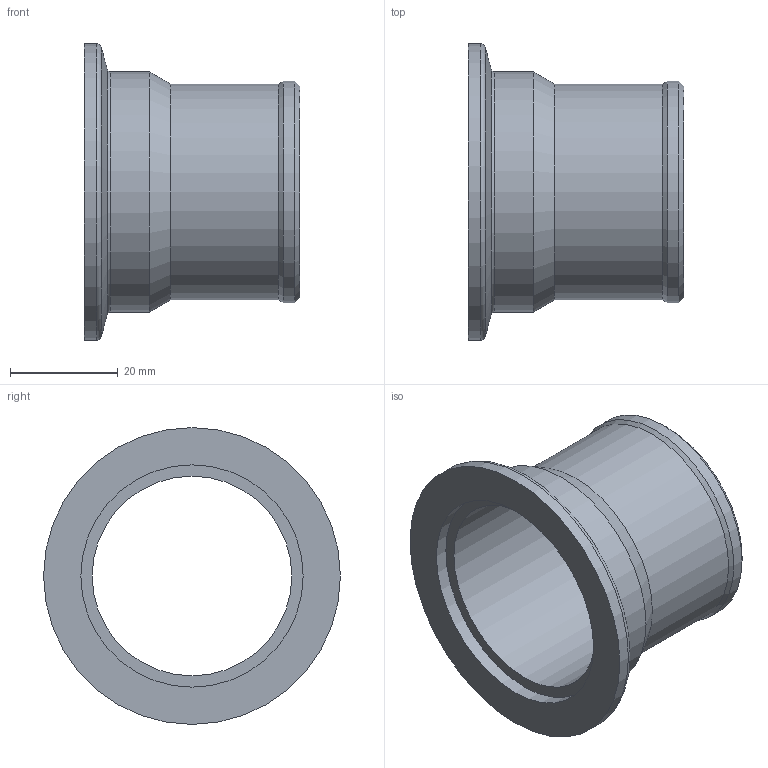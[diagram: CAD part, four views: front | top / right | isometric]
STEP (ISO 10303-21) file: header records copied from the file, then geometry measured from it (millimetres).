
FILE_DESCRIPTION(/* description */ (''),/* implementation_level */ '2;1');
FILE_NAME(/* name */ '18247.step',/* time_stamp */ '2015-03-05T16:53:51+08:00',/* author */ (''),/* organization */ (''),/* preprocessor_version */ 'ST-DEVELOPER v11',/* originating_system */ 'SIEMENS UGS NX 6.0',/* authorisation */ '');
FILE_SCHEMA (('AUTOMOTIVE_DESIGN { 1 0 10303 214 1 1 1 1 }'));
Length unit declared in the file: millimetre
Products named in the file (1): 18247
Bounding box: 40 x 55 x 55 mm (x, y, z)
Volume: 13966.5 mm3; surface area: 12178.6 mm2
Topology: 1 solids, 1 shells, 15 faces, 30 edges, 18 vertices
Faces by surface type: cylinder 6, cone 4, plane 3, torus 2
Full cylindrical faces by diameter (mm): 37 x1, 40 x1, 41 x1, 41.2 x1, 44.5 x1, 55 x1
Entity records: 332 total; most frequent: DIRECTION 62, CARTESIAN_POINT 46, AXIS2_PLACEMENT_3D 31, FACE_BOUND 30, EDGE_LOOP 30, ORIENTED_EDGE 30, ADVANCED_FACE 15, VERTEX_POINT 15
